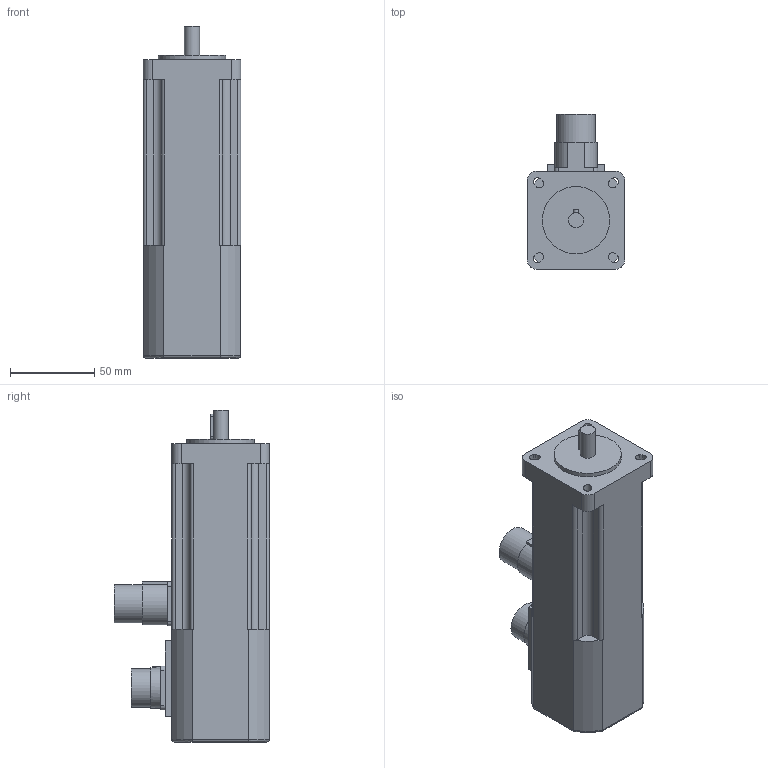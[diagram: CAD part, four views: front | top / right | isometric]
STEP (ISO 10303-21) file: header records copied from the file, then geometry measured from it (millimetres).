
FILE_DESCRIPTION(/* description */ (''),/* implementation_level */ '2;1');
FILE_NAME(/* name */ '\\Lafnas01\disegni\Archivi Lafert\3D\CAD 3D\MODELLI\Assiemi clienti\Serad\Modelli 3D Serad\B28I\Encoder\Enc With Brake\B28D2Ixx4BRx0033.ipt.stp',/* time_stamp */ '2015-09-07T10:47:53+02:00',/* author */ ('Pastrello Ylenia'),/* organization */ (''),/* preprocessor_version */ 'ST-DEVELOPER v15.6',/* originating_system */ 'Autodesk Inventor 2015',/* authorisation */ '');
FILE_SCHEMA (('AUTOMOTIVE_DESIGN { 1 0 10303 214 3 1 1 }'));
Length unit declared in the file: millimetre
Products named in the file (1): B28D2Ixx4BRx0033
Bounding box: 58 x 92 x 197 mm (x, y, z)
Volume: 565313.1 mm3; surface area: 51442.6 mm2
Topology: 1 solids, 1 shells, 138 faces, 368 edges, 239 vertices
Faces by surface type: plane 76, cylinder 58, torus 4
Full cylindrical faces by diameter (mm): 9 x1, 22.7 x2, 24 x1, 40 x1
Entity records: 4389 total; most frequent: CARTESIAN_POINT 872, DIRECTION 741, ORIENTED_EDGE 720, EDGE_CURVE 359, AXIS2_PLACEMENT_3D 255, VERTEX_POINT 236, LINE 231, VECTOR 231
